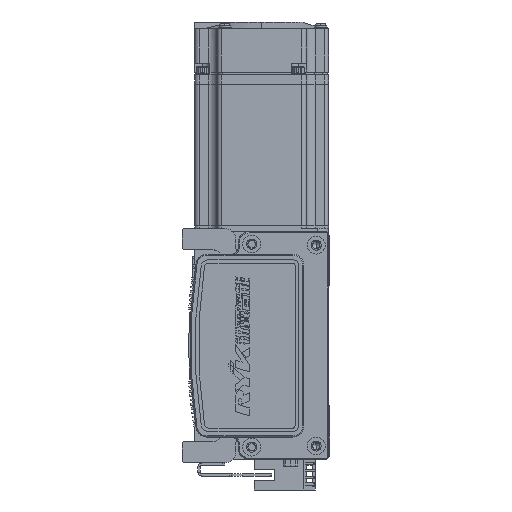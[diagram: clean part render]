
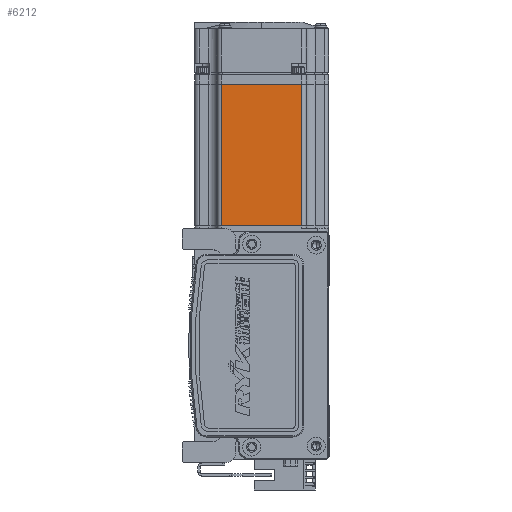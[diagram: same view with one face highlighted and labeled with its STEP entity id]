
A CAD part, left-side view. The second image highlights one B-rep face of the part: STEP entity #6212.
In plain terms, the highlighted planar face has unit normal (-1, 0, 0) as drawn and (0, 0, -1) by its records, which use the part's own axes.
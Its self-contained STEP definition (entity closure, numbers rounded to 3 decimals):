
#2099 = LINE ( 'NONE', #52907, #57196 ) ;
#2797 = VERTEX_POINT ( 'NONE', #28118 ) ;
#6212 = ADVANCED_FACE ( 'NONE', ( #65942 ), #58919, .T. ) ;
#8457 = DIRECTION ( 'NONE',  ( 1., 0., 0. ) ) ;
#8684 = CARTESIAN_POINT ( 'NONE',  ( -7.75, 18., -30. ) ) ;
#9195 = VECTOR ( 'NONE', #8457, 1000. ) ;
#10052 = ORIENTED_EDGE ( 'NONE', *, *, #22513, .T. ) ;
#10163 = EDGE_CURVE ( 'NONE', #49186, #36735, #2099, .T. ) ;
#12192 = LINE ( 'NONE', #17523, #17893 ) ;
#13015 = CARTESIAN_POINT ( 'NONE',  ( -6.5, 18., -30. ) ) ;
#13588 = LINE ( 'NONE', #42450, #51637 ) ;
#13787 = CARTESIAN_POINT ( 'NONE',  ( -7.75, -18., -30. ) ) ;
#16405 = DIRECTION ( 'NONE',  ( -1., 0., 0. ) ) ;
#17523 = CARTESIAN_POINT ( 'NONE',  ( -6.5, -18., -30. ) ) ;
#17893 = VECTOR ( 'NONE', #54148, 1000. ) ;
#21873 = DIRECTION ( 'NONE',  ( 0., 1., 0. ) ) ;
#22343 = DIRECTION ( 'NONE',  ( 0., -1., 0. ) ) ;
#22513 = EDGE_CURVE ( 'NONE', #40249, #2797, #13588, .T. ) ;
#27791 = EDGE_CURVE ( 'NONE', #2797, #49186, #31890, .T. ) ;
#28118 = CARTESIAN_POINT ( 'NONE',  ( -70.95, 18., -30. ) ) ;
#28640 = ORIENTED_EDGE ( 'NONE', *, *, #27791, .T. ) ;
#28826 = ORIENTED_EDGE ( 'NONE', *, *, #10163, .T. ) ;
#30057 = CARTESIAN_POINT ( 'NONE',  ( -70.95, -18., -30. ) ) ;
#31890 = LINE ( 'NONE', #13015, #9195 ) ;
#36735 = VERTEX_POINT ( 'NONE', #13787 ) ;
#40249 = VERTEX_POINT ( 'NONE', #30057 ) ;
#42450 = CARTESIAN_POINT ( 'NONE',  ( -70.95, 25., -30. ) ) ;
#45782 = AXIS2_PLACEMENT_3D ( 'NONE', #53752, #50919, #16405 ) ;
#49186 = VERTEX_POINT ( 'NONE', #8684 ) ;
#50919 = DIRECTION ( 'NONE',  ( 0., 0., -1. ) ) ;
#51637 = VECTOR ( 'NONE', #21873, 1000. ) ;
#52907 = CARTESIAN_POINT ( 'NONE',  ( -7.75, 25., -30. ) ) ;
#53422 = ORIENTED_EDGE ( 'NONE', *, *, #63460, .T. ) ;
#53752 = CARTESIAN_POINT ( 'NONE',  ( -6.5, 25., -30. ) ) ;
#54148 = DIRECTION ( 'NONE',  ( -1., 0., 0. ) ) ;
#57196 = VECTOR ( 'NONE', #22343, 1000. ) ;
#58919 = PLANE ( 'NONE',  #45782 ) ;
#59550 = EDGE_LOOP ( 'NONE', ( #28826, #53422, #10052, #28640 ) ) ;
#63460 = EDGE_CURVE ( 'NONE', #36735, #40249, #12192, .T. ) ;
#65942 = FACE_OUTER_BOUND ( 'NONE', #59550, .T. ) ;
